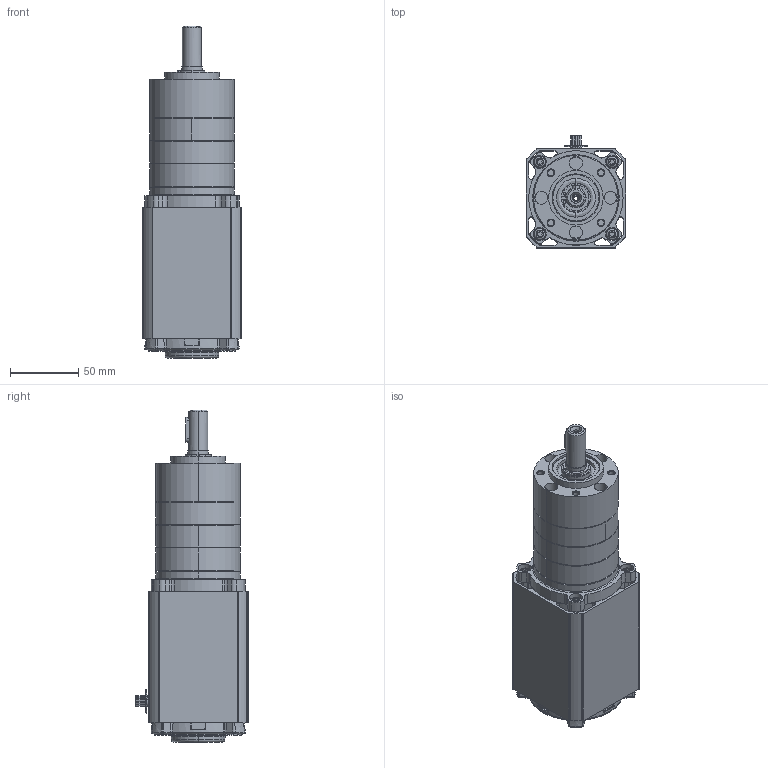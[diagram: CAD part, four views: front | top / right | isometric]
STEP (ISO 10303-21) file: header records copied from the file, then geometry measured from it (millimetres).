
FILE_DESCRIPTION (( 'STEP AP214' ), '1' );
FILE_NAME ('BL6520-PL6200i_3S.STEP', '2013-03-04T14:26:49', ( '' ), ( '' ), 'SwSTEP 2.0', 'SolidWorks 2013', '' );
FILE_SCHEMA (( 'AUTOMOTIVE_DESIGN' ));
Length unit declared in the file: inch
Products named in the file (1): BL6520-PL6200i_3S
Bounding box: 73.36 x 82.37 x 243.57 mm (x, y, z)
Surface area: 104569.8 mm2 (no closed solid volume)
Topology: 0 solids, 62 shells, 924 faces, 3184 edges, 2275 vertices
Faces by surface type: cylinder 378, plane 266, cone 109, torus 100, bspline 64, sphere 7
Entity records: 51884 total; most frequent: CARTESIAN_POINT 12931, DIRECTION 5702, ORIENTED_EDGE 5151, EDGE_CURVE 3177, VERTEX_POINT 2275, AXIS2_PLACEMENT_3D 2164, VECTOR 1374, LINE 1374
